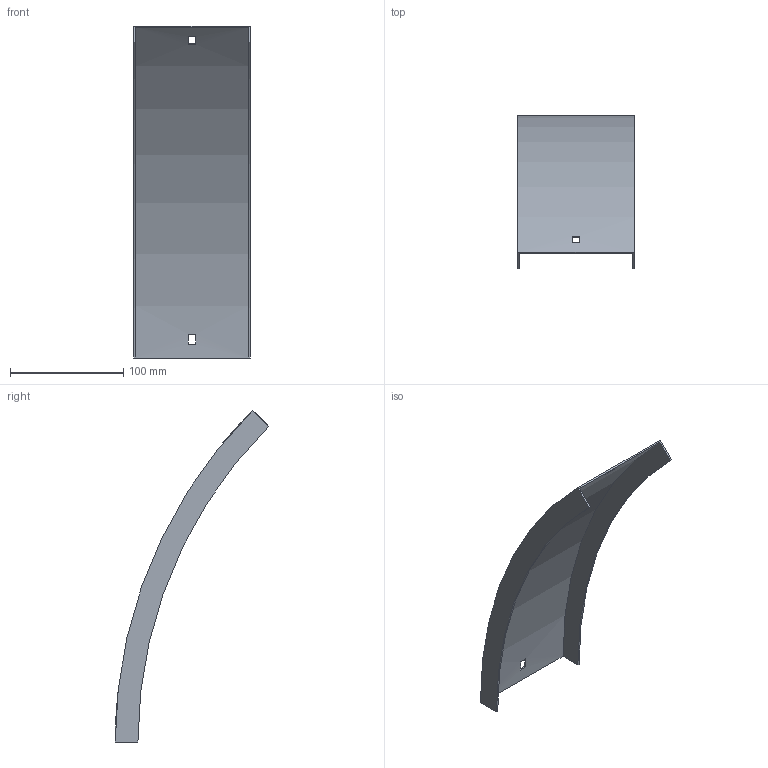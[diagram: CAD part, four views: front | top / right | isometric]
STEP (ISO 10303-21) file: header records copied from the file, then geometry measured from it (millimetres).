
FILE_DESCRIPTION (( 'STEP AP214' ), '1' );
FILE_NAME ('B2_34N3J100.step', '2025-02-21T10:36:53', ( '' ), ( '' ), 'SwSTEP 2.0', 'SolidWorks 2023', '' );
FILE_SCHEMA (( 'AUTOMOTIVE_DESIGN' ));
Length unit declared in the file: millimetre
Products named in the file (1): B2_34N3J100
Bounding box: 103 x 135.4 x 292.74 mm (x, y, z)
Volume: 67547.3 mm3; surface area: 91506.2 mm2
Topology: 1 solids, 1 shells, 18 faces, 48 edges, 32 vertices
Faces by surface type: plane 14, cylinder 4
Entity records: 599 total; most frequent: DIRECTION 102, CARTESIAN_POINT 99, ORIENTED_EDGE 96, EDGE_CURVE 48, AXIS2_PLACEMENT_3D 35, VERTEX_POINT 32, LINE 32, VECTOR 32
